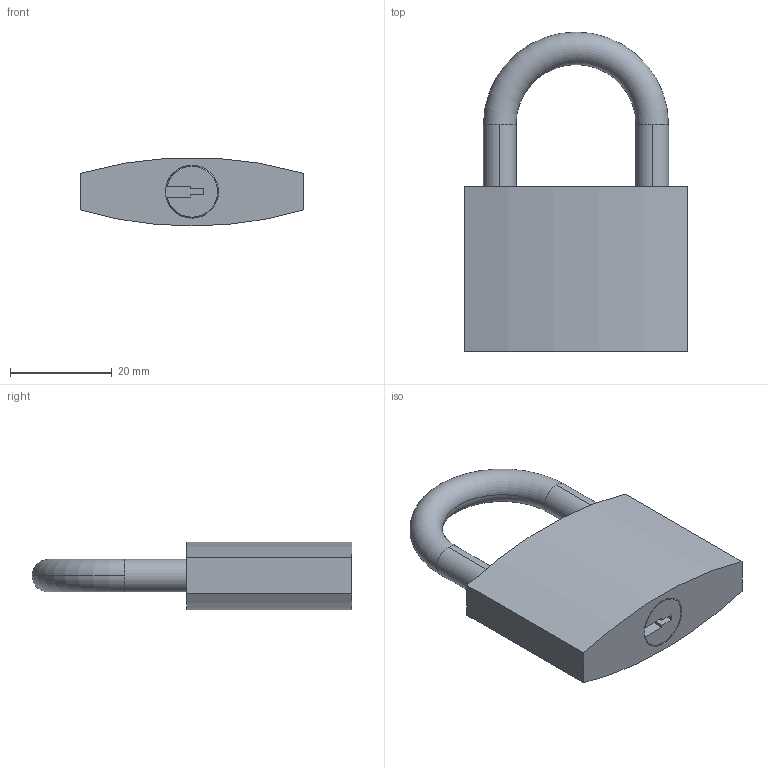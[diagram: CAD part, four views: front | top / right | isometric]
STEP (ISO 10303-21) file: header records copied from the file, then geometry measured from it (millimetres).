
FILE_DESCRIPTION (( 'STEP AP214' ), '1' );
FILE_NAME ('ELN-1000-45.STEP', '2016-01-28T18:33:45', ( '' ), ( '' ), 'SwSTEP 2.0', 'SolidWorks 2012', '' );
FILE_SCHEMA (( 'AUTOMOTIVE_DESIGN' ));
Length unit declared in the file: millimetre
Products named in the file (1): ELN-1000-45
Bounding box: 44 x 62.9 x 13.37 mm (x, y, z)
Volume: 18585.4 mm3; surface area: 5811.4 mm2
Topology: 1 solids, 1 shells, 27 faces, 70 edges, 46 vertices
Faces by surface type: plane 13, cylinder 9, cone 3, torus 2
Entity records: 877 total; most frequent: DIRECTION 153, CARTESIAN_POINT 150, ORIENTED_EDGE 140, EDGE_CURVE 70, AXIS2_PLACEMENT_3D 57, VERTEX_POINT 46, VECTOR 39, LINE 39
